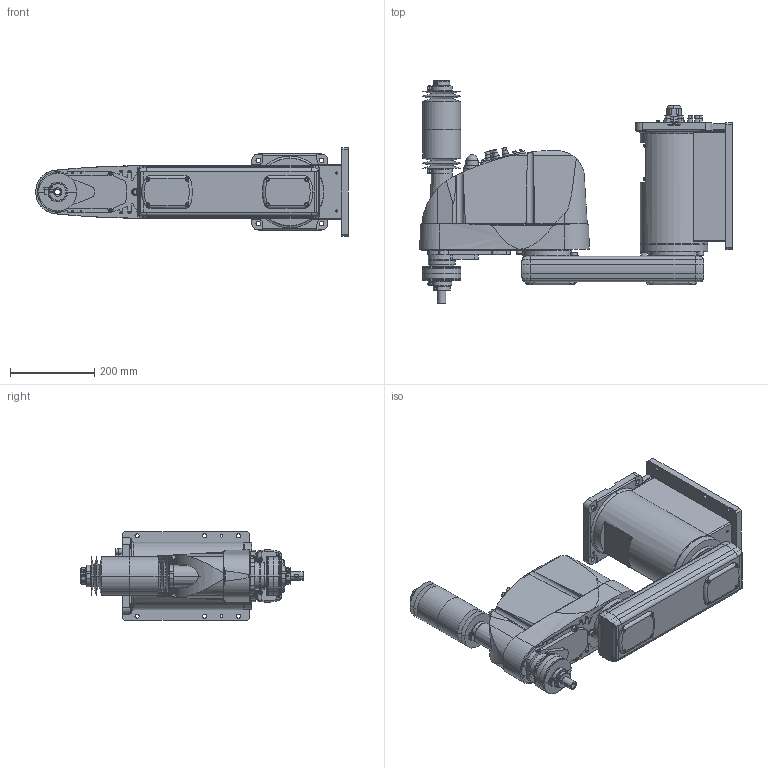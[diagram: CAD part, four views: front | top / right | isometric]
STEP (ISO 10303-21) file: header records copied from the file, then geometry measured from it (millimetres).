
FILE_DESCRIPTION( ( '' ), '1' );
FILE_NAME( '//expscmdclustefs.cadenas.external/client_exchange/iodir/jobs/output/wkb51541953_no0/STEP/G6_551CW_2_14b.stp', '2012-11-23T11:18:11', ( '' ), ( '' ), ' ', ' ', ' ' );
FILE_SCHEMA( ( 'automotive_design' ) );
Length unit declared in the file: millimetre
Products named in the file (8): 1; 2; 3; 4; 5; 6; 7; 8
Bounding box: 740 x 526 x 210 mm (x, y, z)
Volume: 22324476.1 mm3; surface area: 1152758.1 mm2
Topology: 8 solids, 8 shells, 1833 faces, 4488 edges, 2870 vertices
Faces by surface type: plane 947, cylinder 614, cone 232, torus 39, sphere 1
Entity records: 108703 total; most frequent: CARTESIAN_POINT 13023, DIRECTION 9488, STYLED_ITEM 9173, PRESENTATION_STYLE_ASSIGNMENT 9173, COLOUR_RGB 9173, ORIENTED_EDGE 8924, EDGE_CURVE 4462, CURVE_STYLE 4462
